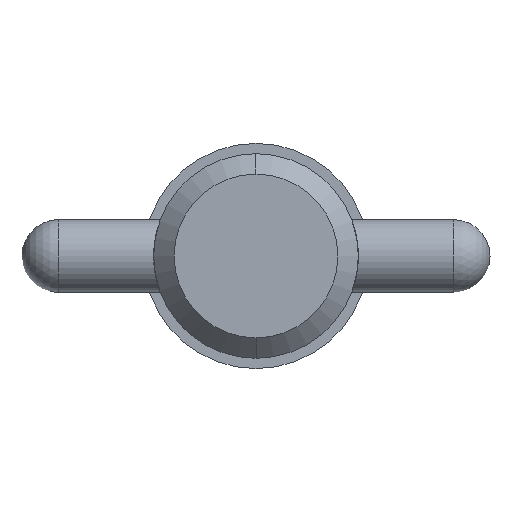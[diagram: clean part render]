
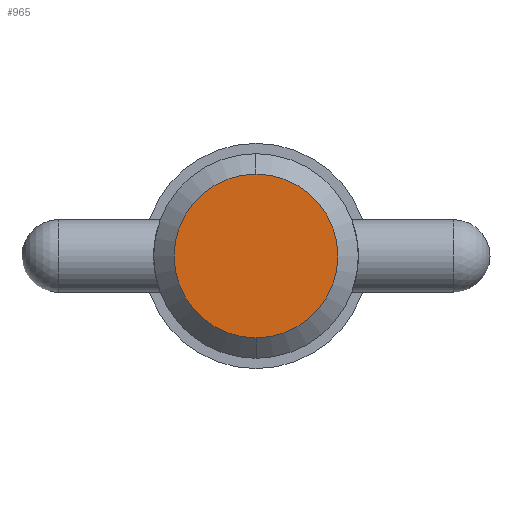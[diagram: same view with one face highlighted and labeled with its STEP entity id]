
A CAD part, left-side view. The second image highlights one B-rep face of the part: STEP entity #965.
In plain terms, the highlighted planar face has unit normal (-1, 0, 0).
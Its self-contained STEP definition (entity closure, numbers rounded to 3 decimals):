
#2 = DIRECTION ( 'NONE',  ( 0., 0., -1. ) ) ;
#11 = DIRECTION ( 'NONE',  ( 1., 0., 0. ) ) ;
#108 = ORIENTED_EDGE ( 'NONE', *, *, #299, .F. ) ;
#109 = CARTESIAN_POINT ( 'NONE',  ( 0., 0., -4.444 ) ) ;
#153 = EDGE_LOOP ( 'NONE', ( #252, #108 ) ) ;
#226 = CIRCLE ( 'NONE', #379, 4.444 ) ;
#252 = ORIENTED_EDGE ( 'NONE', *, *, #287, .F. ) ;
#275 = PLANE ( 'NONE',  #376 ) ;
#287 = EDGE_CURVE ( 'NONE', #519, #506, #1022, .T. ) ;
#299 = EDGE_CURVE ( 'NONE', #506, #519, #226, .T. ) ;
#376 = AXIS2_PLACEMENT_3D ( 'NONE', #762, #608, #522 ) ;
#379 = AXIS2_PLACEMENT_3D ( 'NONE', #552, #11, #2 ) ;
#506 = VERTEX_POINT ( 'NONE', #813 ) ;
#519 = VERTEX_POINT ( 'NONE', #109 ) ;
#522 = DIRECTION ( 'NONE',  ( 0., 0., 1. ) ) ;
#552 = CARTESIAN_POINT ( 'NONE',  ( 0., 0., 0. ) ) ;
#555 = DIRECTION ( 'NONE',  ( 0., 0., -1. ) ) ;
#564 = AXIS2_PLACEMENT_3D ( 'NONE', #887, #708, #555 ) ;
#604 = FACE_OUTER_BOUND ( 'NONE', #153, .T. ) ;
#608 = DIRECTION ( 'NONE',  ( -1., 0., 0. ) ) ;
#708 = DIRECTION ( 'NONE',  ( 1., 0., 0. ) ) ;
#762 = CARTESIAN_POINT ( 'NONE',  ( 0., 0., 0. ) ) ;
#813 = CARTESIAN_POINT ( 'NONE',  ( 0., 0., 4.444 ) ) ;
#887 = CARTESIAN_POINT ( 'NONE',  ( 0., 0., 0. ) ) ;
#965 = ADVANCED_FACE ( 'NONE', ( #604 ), #275, .T. ) ;
#1022 = CIRCLE ( 'NONE', #564, 4.444 ) ;
